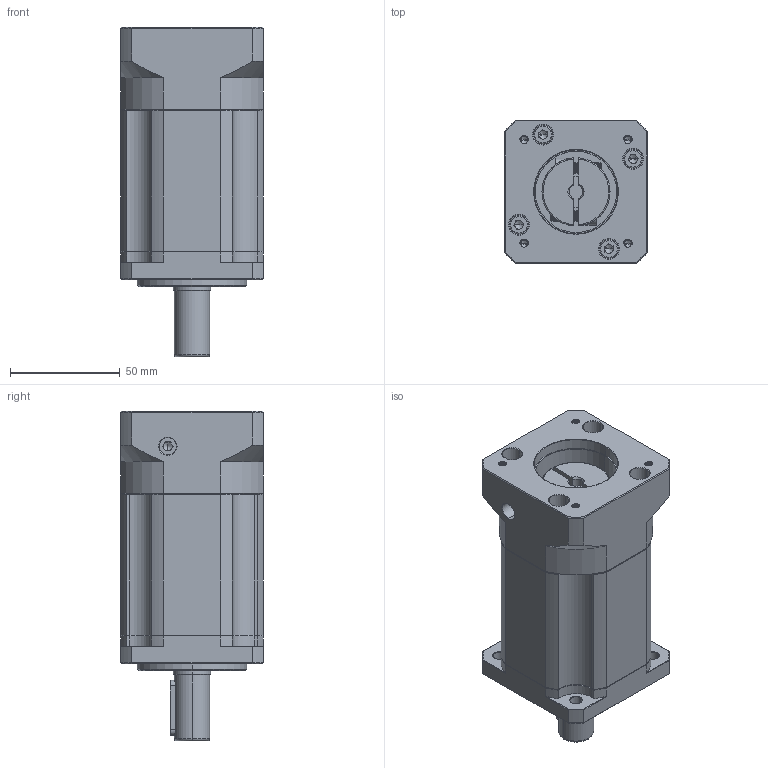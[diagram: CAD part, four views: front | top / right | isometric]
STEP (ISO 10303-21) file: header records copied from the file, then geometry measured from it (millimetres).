
FILE_DESCRIPTION (( 'STEP AP214' ), '1' );
FILE_NAME ('ZB060-D16-L3-P2-6.35-38.1-47.14X47.14-M4.step', '2023-08-16T07:08:28', ( '' ), ( '' ), 'SwSTEP 2.0', 'SolidWorks 2016', '' );
FILE_SCHEMA (( 'AUTOMOTIVE_DESIGN' ));
Length unit declared in the file: millimetre
Products named in the file (1): ZB060-D16-L3-P2-6.35-38.1-47.14X47.14-M4
Bounding box: 65 x 65 x 150 mm (x, y, z)
Volume: 396515.7 mm3; surface area: 62469.1 mm2
Topology: 6 solids, 6 shells, 2154 faces, 5800 edges, 3734 vertices
Faces by surface type: plane 1059, bspline 397, cylinder 381, cone 283, torus 34
Entity records: 114832 total; most frequent: CARTESIAN_POINT 40217, ORIENTED_EDGE 11540, DIRECTION 9090, EDGE_CURVE 5770, VERTEX_POINT 3734, VECTOR 3636, LINE 3636, AXIS2_PLACEMENT_3D 2727
